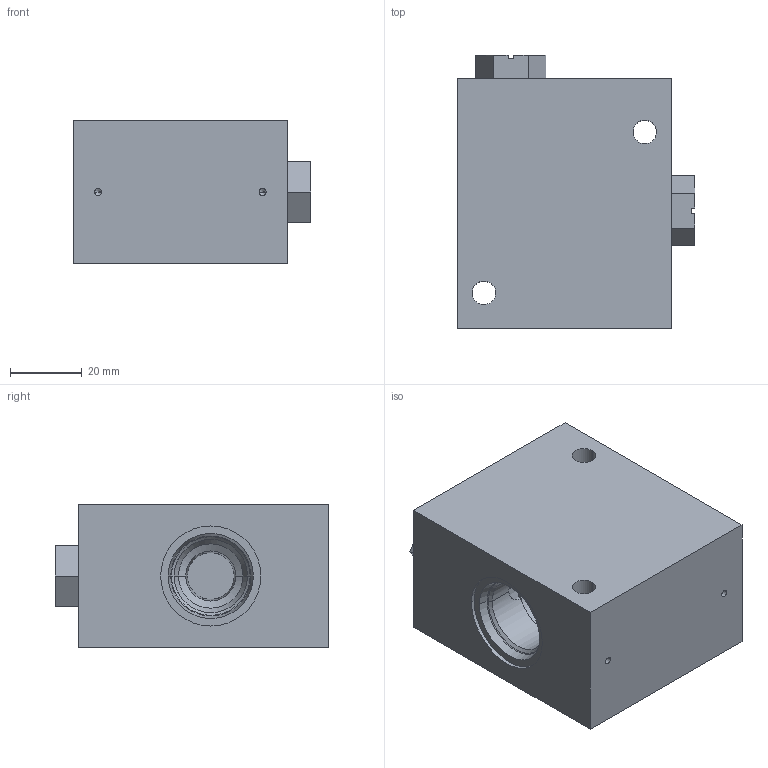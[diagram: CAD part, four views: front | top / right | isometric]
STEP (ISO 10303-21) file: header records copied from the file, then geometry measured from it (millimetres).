
FILE_DESCRIPTION((''),'2;1');
FILE_NAME('15653400_ASM','2023-10-12T',('l.soukupova'),(''),'PRO/ENGINEER BY PARAMETRIC TECHNOLOGY CORPORATION, 2015440','PRO/ENGINEER BY PARAMETRIC TECHNOLOGY CORPORATION, 2015440','');
FILE_SCHEMA(('AUTOMOTIVE_DESIGN { 1 0 10303 214 1 1 1 1 }'));
Length unit declared in the file: millimetre
Products named in the file (3): 1000059432; TB_1701A; 15653400_ASM
Assembly tree (3 placements, depth 2):
  15653400_ASM
    1000059432
    TB_1701A  x2
Bounding box: 66.5 x 76.5 x 40 mm (x, y, z)
Volume: 148476.9 mm3; surface area: 31452.4 mm2
Topology: 3 solids, 8 shells, 154 faces, 410 edges, 296 vertices
Faces by surface type: plane 74, cylinder 52, cone 28
Entity records: 4899 total; most frequent: CARTESIAN_POINT 680, DIRECTION 647, ORIENTED_EDGE 506, PRESENTATION_STYLE_ASSIGNMENT 343, STYLED_ITEM 343, CURVE_STYLE 294, EDGE_CURVE 262, AXIS2_PLACEMENT_3D 236
